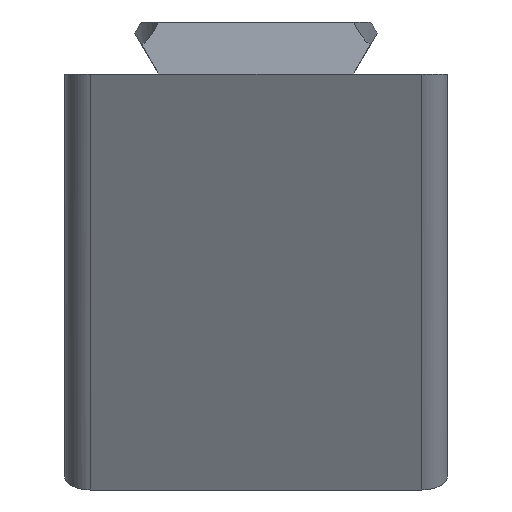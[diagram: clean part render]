
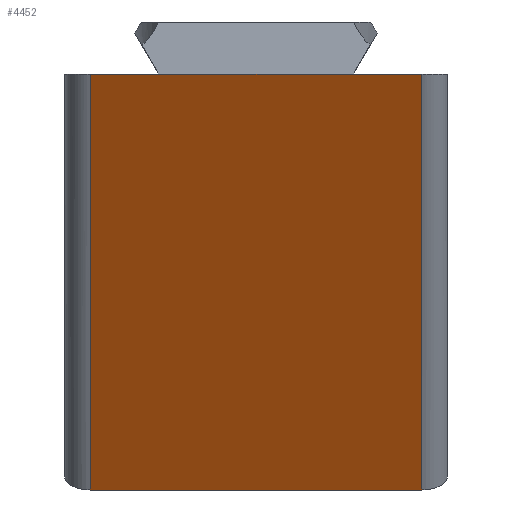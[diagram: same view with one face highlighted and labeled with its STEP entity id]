
A CAD part, left-side view. The second image highlights one B-rep face of the part: STEP entity #4452.
In plain terms, the highlighted planar face has unit normal (-0.857, 0, -0.515).
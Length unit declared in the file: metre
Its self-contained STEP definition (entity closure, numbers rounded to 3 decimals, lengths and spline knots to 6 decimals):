
#650=ORIENTED_EDGE('',*,*,#1760,.T.);
#651=ORIENTED_EDGE('',*,*,#1969,.T.);
#652=ORIENTED_EDGE('',*,*,#1713,.F.);
#653=ORIENTED_EDGE('',*,*,#1970,.T.);
#654=ORIENTED_EDGE('',*,*,#1778,.T.);
#655=ORIENTED_EDGE('',*,*,#1964,.T.);
#1713=EDGE_CURVE('',#2389,#2390,#2839,.T.);
#1760=EDGE_CURVE('',#2437,#2436,#2863,.T.);
#1778=EDGE_CURVE('',#2455,#2454,#2874,.T.);
#1964=EDGE_CURVE('',#2454,#2437,#2972,.T.);
#1969=EDGE_CURVE('',#2436,#2390,#2973,.T.);
#1970=EDGE_CURVE('',#2389,#2455,#2974,.F.);
#2389=VERTEX_POINT('',#6003);
#2390=VERTEX_POINT('',#6005);
#2436=VERTEX_POINT('',#6101);
#2437=VERTEX_POINT('',#6103);
#2454=VERTEX_POINT('',#6137);
#2455=VERTEX_POINT('',#6139);
#2839=LINE('',#6004,#3284);
#2863=LINE('',#6102,#3308);
#2874=LINE('',#6138,#3319);
#2972=LINE('',#6629,#3417);
#2973=LINE('',#6640,#3418);
#2974=LINE('',#6641,#3419);
#3284=VECTOR('',#4991,1.);
#3308=VECTOR('',#5069,1.);
#3319=VECTOR('',#5094,1.);
#3417=VECTOR('',#5272,1.);
#3418=VECTOR('',#5289,1.);
#3419=VECTOR('',#5290,1.);
#3768=EDGE_LOOP('',(#650,#651,#652,#653,#654,#655));
#4051=FACE_BOUND('',#3768,.T.);
#4308=PLANE('',#4778);
#4452=ADVANCED_FACE('',(#4051),#4308,.F.);
#4778=AXIS2_PLACEMENT_3D('',#6639,#5287,#5288);
#4991=DIRECTION('',(0.,1.,0.));
#5069=DIRECTION('',(0.,1.,0.));
#5094=DIRECTION('',(0.,1.,0.));
#5272=DIRECTION('',(0.,1.,0.));
#5287=DIRECTION('',(0.857,0.,0.515));
#5288=DIRECTION('',(0.515,0.,-0.857));
#5289=DIRECTION('',(0.515,0.,-0.857));
#5290=DIRECTION('',(0.515,0.,-0.857));
#6003=CARTESIAN_POINT('',(0.019596,-0.013,-0.032613));
#6004=CARTESIAN_POINT('',(0.019596,-0.015,-0.032613));
#6005=CARTESIAN_POINT('',(0.019596,0.013,-0.032613));
#6101=CARTESIAN_POINT('',(0.,0.013,0.));
#6102=CARTESIAN_POINT('',(0.,-0.015,0.));
#6103=CARTESIAN_POINT('',(0.,0.007695,0.));
#6137=CARTESIAN_POINT('',(0.,-0.007695,0.));
#6138=CARTESIAN_POINT('',(0.,-0.015,0.));
#6139=CARTESIAN_POINT('',(0.,-0.013,0.));
#6629=CARTESIAN_POINT('',(0.,0.,0.));
#6639=CARTESIAN_POINT('',(0.009798,-0.015,-0.016306));
#6640=CARTESIAN_POINT('',(0.009798,0.013,-0.016306));
#6641=CARTESIAN_POINT('',(0.,-0.013,0.));
